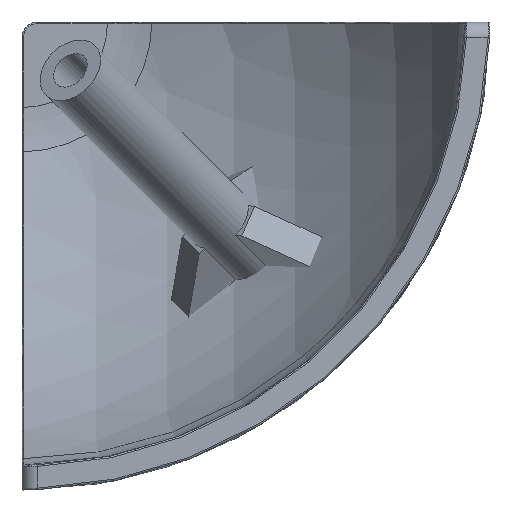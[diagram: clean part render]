
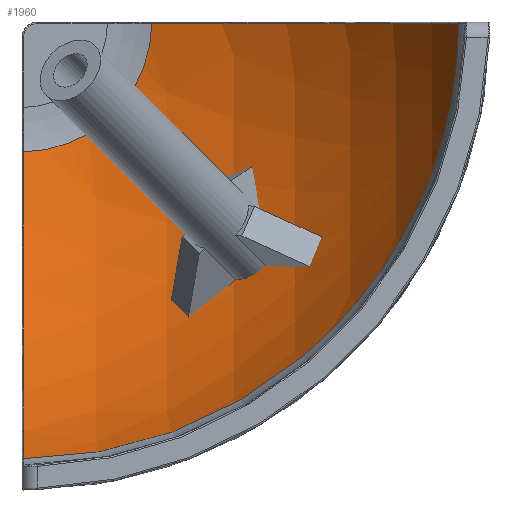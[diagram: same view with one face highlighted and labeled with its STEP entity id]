
A CAD part, front view. The second image highlights one B-rep face of the part: STEP entity #1960.
In plain terms, the highlighted spherical face has radius 29.3 mm.
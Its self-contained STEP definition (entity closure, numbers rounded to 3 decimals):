
#131 = DIRECTION ( 'NONE',  ( 0., 0., -1. ) ) ;
#174 = CIRCLE ( 'NONE', #446, 29.3 ) ;
#225 = CARTESIAN_POINT ( 'NONE',  ( 0.1, 0., 0. ) ) ;
#268 = CARTESIAN_POINT ( 'NONE',  ( 0.1, 28.085, -8.348 ) ) ;
#310 = CIRCLE ( 'NONE', #1232, 8.348 ) ;
#361 = DIRECTION ( 'NONE',  ( 0., -1., 0. ) ) ;
#446 = AXIS2_PLACEMENT_3D ( 'NONE', #225, #890, #1540 ) ;
#451 = CIRCLE ( 'NONE', #1942, 29.3 ) ;
#456 = CARTESIAN_POINT ( 'NONE',  ( 28.085, 8.348, -0.1 ) ) ;
#459 = DIRECTION ( 'NONE',  ( 0., 0., -1. ) ) ;
#469 = VERTEX_POINT ( 'NONE', #2154 ) ;
#557 = CIRCLE ( 'NONE', #1755, 28.085 ) ;
#606 = DIRECTION ( 'NONE',  ( 1., 0., 0. ) ) ;
#631 = SPHERICAL_SURFACE ( 'NONE', #1281, 29.3 ) ;
#653 = CARTESIAN_POINT ( 'NONE',  ( 8.348, 28.085, -0.1 ) ) ;
#786 = FACE_OUTER_BOUND ( 'NONE', #1781, .T. ) ;
#805 = ORIENTED_EDGE ( 'NONE', *, *, #848, .T. ) ;
#848 = EDGE_CURVE ( 'NONE', #469, #2070, #557, .T. ) ;
#890 = DIRECTION ( 'NONE',  ( -1., 0., 0. ) ) ;
#945 = CARTESIAN_POINT ( 'NONE',  ( 0., 28.085, 0. ) ) ;
#1012 = DIRECTION ( 'NONE',  ( 0., 0., -1. ) ) ;
#1079 = EDGE_CURVE ( 'NONE', #2070, #1982, #451, .T. ) ;
#1091 = VERTEX_POINT ( 'NONE', #268 ) ;
#1112 = ORIENTED_EDGE ( 'NONE', *, *, #1345, .F. ) ;
#1232 = AXIS2_PLACEMENT_3D ( 'NONE', #945, #1595, #131 ) ;
#1281 = AXIS2_PLACEMENT_3D ( 'NONE', #1284, #1947, #459 ) ;
#1284 = CARTESIAN_POINT ( 'NONE',  ( 0., 0., 0. ) ) ;
#1345 = EDGE_CURVE ( 'NONE', #1091, #1982, #310, .T. ) ;
#1414 = CARTESIAN_POINT ( 'NONE',  ( 0., 0., -0.1 ) ) ;
#1540 = DIRECTION ( 'NONE',  ( 0., 0., 1. ) ) ;
#1567 = EDGE_CURVE ( 'NONE', #1091, #469, #174, .T. ) ;
#1595 = DIRECTION ( 'NONE',  ( 0., -1., 0. ) ) ;
#1653 = ORIENTED_EDGE ( 'NONE', *, *, #1079, .T. ) ;
#1755 = AXIS2_PLACEMENT_3D ( 'NONE', #1833, #361, #1012 ) ;
#1781 = EDGE_LOOP ( 'NONE', ( #1112, #2006, #805, #1653 ) ) ;
#1833 = CARTESIAN_POINT ( 'NONE',  ( 0., 8.348, 0. ) ) ;
#1942 = AXIS2_PLACEMENT_3D ( 'NONE', #1414, #2089, #606 ) ;
#1947 = DIRECTION ( 'NONE',  ( 1., 0., 0. ) ) ;
#1960 = ADVANCED_FACE ( 'NONE', ( #786 ), #631, .F. ) ;
#1982 = VERTEX_POINT ( 'NONE', #653 ) ;
#2006 = ORIENTED_EDGE ( 'NONE', *, *, #1567, .T. ) ;
#2070 = VERTEX_POINT ( 'NONE', #456 ) ;
#2089 = DIRECTION ( 'NONE',  ( 0., 0., 1. ) ) ;
#2154 = CARTESIAN_POINT ( 'NONE',  ( 0.1, 8.348, -28.085 ) ) ;
